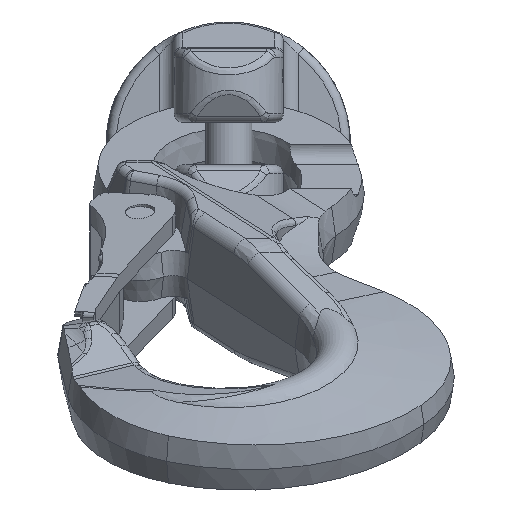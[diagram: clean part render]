
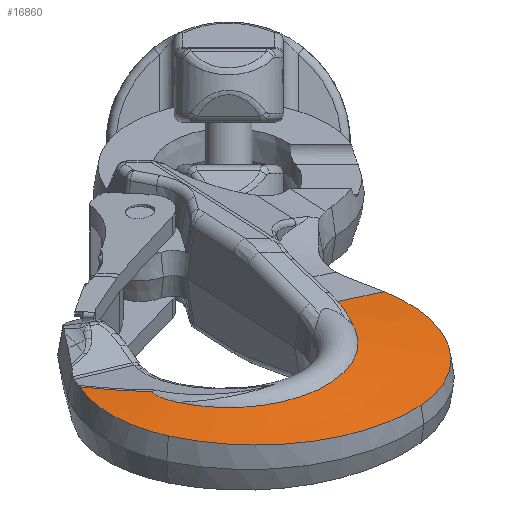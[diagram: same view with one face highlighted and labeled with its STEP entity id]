
A CAD part, left-side view. The second image highlights one B-rep face of the part: STEP entity #16860.
In plain terms, the highlighted conical face has half-angle 80.84 degrees and reference radius 58.871 mm.
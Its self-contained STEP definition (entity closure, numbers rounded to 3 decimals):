
#12179=CARTESIAN_POINT('',(-50.452,9.992,
171.683));
#12180=CARTESIAN_POINT('',(-48.241,10.24,
172.608));
#12181=CARTESIAN_POINT('',(-43.905,10.708,
174.279));
#12182=CARTESIAN_POINT('',(-37.746,11.321,
176.264));
#12183=CARTESIAN_POINT('',(-31.73,11.871,
177.822));
#12184=CARTESIAN_POINT('',(-27.757,12.2,
178.587));
#12185=CARTESIAN_POINT('',(-25.788,12.354,
178.899));
#12187=CARTESIAN_POINT('',(-25.788,12.354,
178.899));
#12188=CARTESIAN_POINT('',(-25.807,12.346,
178.949));
#12189=CARTESIAN_POINT('',(-25.828,12.33,
179.059));
#12190=CARTESIAN_POINT('',(-25.814,12.307,
179.242));
#12191=CARTESIAN_POINT('',(-25.76,12.286,
179.447));
#12192=CARTESIAN_POINT('',(-25.668,12.267,
179.67));
#12193=CARTESIAN_POINT('',(-25.547,12.249,
179.897));
#12194=CARTESIAN_POINT('',(-25.406,12.234,
180.121));
#12195=CARTESIAN_POINT('',(-25.234,12.218,
180.362));
#12196=CARTESIAN_POINT('',(-25.035,12.204,
180.615));
#12197=CARTESIAN_POINT('',(-24.806,12.19,
180.881));
#12198=CARTESIAN_POINT('',(-24.546,12.177,
181.161));
#12199=CARTESIAN_POINT('',(-24.251,12.165,
181.457));
#12200=CARTESIAN_POINT('',(-23.918,12.153,
181.768));
#12201=CARTESIAN_POINT('',(-23.544,12.141,
182.096));
#12202=CARTESIAN_POINT('',(-23.125,12.131,
182.441));
#12203=CARTESIAN_POINT('',(-22.656,12.121,
182.804));
#12204=CARTESIAN_POINT('',(-22.132,12.111,
183.184));
#12205=CARTESIAN_POINT('',(-21.547,12.103,
183.581));
#12206=CARTESIAN_POINT('',(-20.893,12.096,
183.996));
#12207=CARTESIAN_POINT('',(-20.163,12.09,
184.426));
#12208=CARTESIAN_POINT('',(-19.348,12.085,
184.87));
#12209=CARTESIAN_POINT('',(-18.439,12.082,
185.326));
#12210=CARTESIAN_POINT('',(-17.76,12.081,
185.636));
#12211=CARTESIAN_POINT('',(-17.402,12.081,
185.79));
#12213=CARTESIAN_POINT('',(0.,12.081,145.5));
#12214=DIRECTION('',(0.,1.,0.));
#12215=DIRECTION('',(0.934,0.,-0.358));
#12216=AXIS2_PLACEMENT_3D('',#12213,#12214,#12215);
#12218=DIRECTION('',(0.778,-0.159,-0.608));
#12219=VECTOR('',#12218,23.287);
#12220=CARTESIAN_POINT('',(34.584,12.081,118.48));
#12221=LINE('',#12220,#12219);
#12222=CARTESIAN_POINT('',(65.233,7.303,179.409));
#12223=CARTESIAN_POINT('',(66.412,7.255,177.78));
#12224=CARTESIAN_POINT('',(68.593,7.17,174.38));
#12225=CARTESIAN_POINT('',(71.282,7.073,168.908));
#12226=CARTESIAN_POINT('',(73.327,7.008,163.174));
#12227=CARTESIAN_POINT('',(74.699,6.976,157.311));
#12228=CARTESIAN_POINT('',(75.41,6.976,151.282));
#12229=CARTESIAN_POINT('',(75.431,7.008,145.191));
#12230=CARTESIAN_POINT('',(74.766,7.072,139.174));
#12231=CARTESIAN_POINT('',(73.433,7.167,133.284));
#12232=CARTESIAN_POINT('',(71.444,7.294,127.578));
#12233=CARTESIAN_POINT('',(68.825,7.451,122.135));
#12234=CARTESIAN_POINT('',(65.619,7.637,117.031));
#12235=CARTESIAN_POINT('',(61.827,7.854,112.281));
#12236=CARTESIAN_POINT('',(57.509,8.1,107.985));
#12237=CARTESIAN_POINT('',(54.343,8.28,105.482));
#12238=CARTESIAN_POINT('',(52.7,8.374,104.326));
#12240=CARTESIAN_POINT('',(-20.463,9.224,
203.607));
#12241=CARTESIAN_POINT('',(-18.193,9.202,
204.55));
#12242=CARTESIAN_POINT('',(-13.554,9.152,
206.204));
#12243=CARTESIAN_POINT('',(-6.336,9.057,
207.965));
#12244=CARTESIAN_POINT('',(1.014,8.945,208.97));
#12245=CARTESIAN_POINT('',(8.384,8.818,209.214));
#12246=CARTESIAN_POINT('',(15.771,8.677,208.701));
#12247=CARTESIAN_POINT('',(23.08,8.524,207.425));
#12248=CARTESIAN_POINT('',(30.186,8.361,205.414));
#12249=CARTESIAN_POINT('',(37.049,8.192,202.687));
#12250=CARTESIAN_POINT('',(43.614,8.016,199.258));
#12251=CARTESIAN_POINT('',(49.774,7.838,195.185));
#12252=CARTESIAN_POINT('',(55.501,7.658,190.487));
#12253=CARTESIAN_POINT('',(60.702,7.479,185.237));
#12254=CARTESIAN_POINT('',(63.792,7.361,181.4));
#12255=CARTESIAN_POINT('',(65.233,7.303,179.409));
#12257=CARTESIAN_POINT('',(-50.452,9.992,
171.683));
#12258=CARTESIAN_POINT('',(-49.842,9.948,
173.457));
#12259=CARTESIAN_POINT('',(-48.434,9.861,
176.944));
#12260=CARTESIAN_POINT('',(-45.785,9.739,
181.919));
#12261=CARTESIAN_POINT('',(-42.613,9.625,
186.605));
#12262=CARTESIAN_POINT('',(-38.969,9.522,
190.921));
#12263=CARTESIAN_POINT('',(-34.912,9.43,
194.811));
#12264=CARTESIAN_POINT('',(-30.433,9.348,
198.28));
#12265=CARTESIAN_POINT('',(-25.596,9.279,
201.261));
#12266=CARTESIAN_POINT('',(-22.197,9.241,
202.887));
#12267=CARTESIAN_POINT('',(-20.463,9.224,
203.607));
#12277=CARTESIAN_POINT('',(-50.452,9.992,
171.683));
#12289=CARTESIAN_POINT('',(-17.402,12.081,
185.79));
#12348=CARTESIAN_POINT('',(0.,12.081,145.5));
#12349=DIRECTION('',(0.,-1.,0.));
#12350=DIRECTION('',(0.934,0.,-0.358));
#12351=AXIS2_PLACEMENT_3D('',#12348,#12349,#12350);
#12698=CARTESIAN_POINT('',(52.7,8.374,104.326));
#14671=CARTESIAN_POINT('',(40.986,12.081,129.808));
#14896=CARTESIAN_POINT('',(34.584,12.081,118.48));
#14897=VERTEX_POINT('',#14896);
#14909=VERTEX_POINT('',#12698);
#14910=VERTEX_POINT('',#12222);
#14911=VERTEX_POINT('',#12240);
#14983=VERTEX_POINT('',#14671);
#14996=VERTEX_POINT('',#12289);
#15000=VERTEX_POINT('',#12277);
#15031=VERTEX_POINT('',#12187);
#16839=CARTESIAN_POINT('',(0.,9.665,145.5));
#16840=DIRECTION('',(0.,-1.,0.));
#16841=DIRECTION('',(-0.788,0.,0.616));
#16842=AXIS2_PLACEMENT_3D('',#16839,#16840,#16841);
#16843=CONICAL_SURFACE('',#16842,58.871,80.84);
#16845=ORIENTED_EDGE('',*,*,#16844,.T.);
#16847=ORIENTED_EDGE('',*,*,#16846,.T.);
#16849=ORIENTED_EDGE('',*,*,#16848,.F.);
#16851=ORIENTED_EDGE('',*,*,#16850,.T.);
#16853=ORIENTED_EDGE('',*,*,#16852,.T.);
#16855=ORIENTED_EDGE('',*,*,#16854,.F.);
#16856=ORIENTED_EDGE('',*,*,#16832,.F.);
#16857=ORIENTED_EDGE('',*,*,#16782,.F.);
#16858=EDGE_LOOP('',(#16845,#16847,#16849,#16851,#16853,#16855,#16856,#16857));
#16859=FACE_OUTER_BOUND('',#16858,.F.);
#16860=ADVANCED_FACE('',(#16859),#16843,.T.);
#12186=B_SPLINE_CURVE_WITH_KNOTS('',3,(#12179,#12180,#12181,#12182,#12183,
#12184,#12185),.UNSPECIFIED.,.F.,.F.,(4,1,1,1,4),(0.,0.25,0.5,0.75,
1.),.UNSPECIFIED.);
#12212=B_SPLINE_CURVE_WITH_KNOTS('',3,(#12187,#12188,#12189,#12190,#12191,
#12192,#12193,#12194,#12195,#12196,#12197,#12198,#12199,#12200,#12201,#12202,
#12203,#12204,#12205,#12206,#12207,#12208,#12209,#12210,#12211),.UNSPECIFIED.,
.F.,.F.,(4,1,1,1,1,1,1,1,1,1,1,1,1,1,1,1,1,1,1,1,1,1,4),(0.,0.045,
0.091,0.136,0.182,0.227,
0.273,0.318,0.364,0.409,
0.455,0.5,0.545,0.591,0.636,
0.682,0.727,0.773,0.818,
0.864,0.909,0.955,1.),.UNSPECIFIED.);
#12217=CIRCLE('',#12216,43.888);
#12239=B_SPLINE_CURVE_WITH_KNOTS('',3,(#12222,#12223,#12224,#12225,#12226,
#12227,#12228,#12229,#12230,#12231,#12232,#12233,#12234,#12235,#12236,#12237,
#12238),.UNSPECIFIED.,.F.,.F.,(4,1,1,1,1,1,1,1,1,1,1,1,1,1,4),(0.,
0.071,0.143,0.214,0.286,
0.357,0.429,0.5,0.571,0.643,
0.714,0.786,0.857,0.929,1.),
.UNSPECIFIED.);
#12256=B_SPLINE_CURVE_WITH_KNOTS('',3,(#12240,#12241,#12242,#12243,#12244,
#12245,#12246,#12247,#12248,#12249,#12250,#12251,#12252,#12253,#12254,#12255),
.UNSPECIFIED.,.F.,.F.,(4,1,1,1,1,1,1,1,1,1,1,1,1,4),(0.,0.077,
0.154,0.231,0.308,0.385,
0.462,0.538,0.615,0.692,
0.769,0.846,0.923,1.),.UNSPECIFIED.);
#12268=B_SPLINE_CURVE_WITH_KNOTS('',3,(#12257,#12258,#12259,#12260,#12261,
#12262,#12263,#12264,#12265,#12266,#12267),.UNSPECIFIED.,.F.,.F.,(4,1,1,1,1,1,1,
1,4),(0.,0.125,0.25,0.375,0.5,0.625,0.75,0.875,1.),
.UNSPECIFIED.);
#12352=CIRCLE('',#12351,43.888);
#16782=EDGE_CURVE('',#15000,#14911,#12268,.T.);
#16832=EDGE_CURVE('',#14911,#14910,#12256,.T.);
#16844=EDGE_CURVE('',#15000,#15031,#12186,.T.);
#16846=EDGE_CURVE('',#15031,#14996,#12212,.T.);
#16848=EDGE_CURVE('',#14983,#14996,#12352,.T.);
#16850=EDGE_CURVE('',#14983,#14897,#12217,.T.);
#16852=EDGE_CURVE('',#14897,#14909,#12221,.T.);
#16854=EDGE_CURVE('',#14910,#14909,#12239,.T.);
